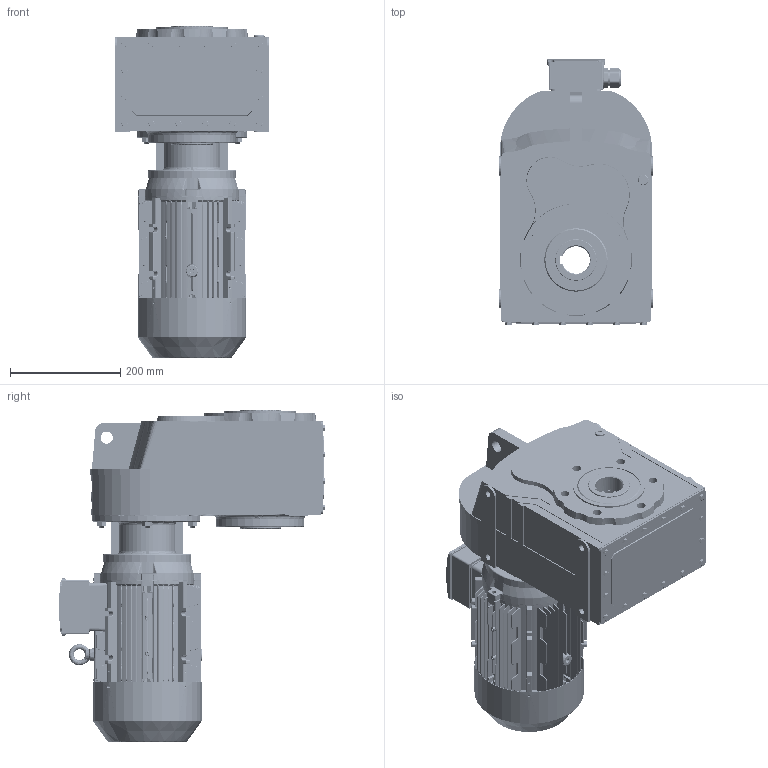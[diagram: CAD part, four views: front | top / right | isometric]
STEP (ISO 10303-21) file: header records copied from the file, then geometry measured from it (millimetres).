
FILE_DESCRIPTION (( 'STEP AP203' ), '1' );
FILE_NAME ('DV_473_0_MX3-100L.STEP', '2018-11-15T12:19:39', ( '' ), ( '' ), 'SwSTEP 2.0', 'SolidWorks 2012', '' );
FILE_SCHEMA (( 'CONFIG_CONTROL_DESIGN' ));
Products named in the file (16): DV_473_0_MX3-100L; plain parallel keys_GB_CONNECTING_PIECE_KEYS_CSK 8X50; MX3-100L_B14; IE3 100 shaft cover; IE3 100 B14 flange; IE3 100 fan; IE3 100 terminal box cover; IE3 100 fan cover; eyebolts gb_GB_FASTENER_SCREWS_FRS M8-N; IE3 100 terminal box base; IE3 100 Shaft; IE3 100 B3 Shield; IE3 100 casing; 33100B14_Varsayìlan; D473_Varsayìlan_1; ML58A_Varsayìlan_1
Assembly tree (16 placements, depth 3):
  DV_473_0_MX3-100L
    D473_Varsayìlan_1
    33100B14_Varsayìlan
    ML58A_Varsayìlan_1
    MX3-100L_B14
      IE3 100 casing
      IE3 100 B3 Shield
      IE3 100 Shaft
      eyebolts gb_GB_FASTENER_SCREWS_FRS M8-N
      IE3 100 terminal box base
      IE3 100 terminal box cover
      IE3 100 fan
      IE3 100 fan cover
      plain parallel keys_GB_CONNECTING_PIECE_KEYS_CSK 8X50
      IE3 100 shaft cover  x2
      IE3 100 B14 flange
Bounding box: 280 x 481.88 x 601.51 mm (x, y, z)
Volume: 20178674.1 mm3; surface area: 1819836.3 mm2
Topology: 16 solids, 18 shells, 5893 faces, 14990 edges, 9110 vertices
Faces by surface type: plane 1896, bspline 1573, cylinder 1399, cone 581, torus 332, sphere 112
Entity records: 237733 total; most frequent: CARTESIAN_POINT 108520, ORIENTED_EDGE 29314, DIRECTION 22892, EDGE_CURVE 14657, VERTEX_POINT 9002, AXIS2_PLACEMENT_3D 8485, EDGE_LOOP 6321, VECTOR 5922
